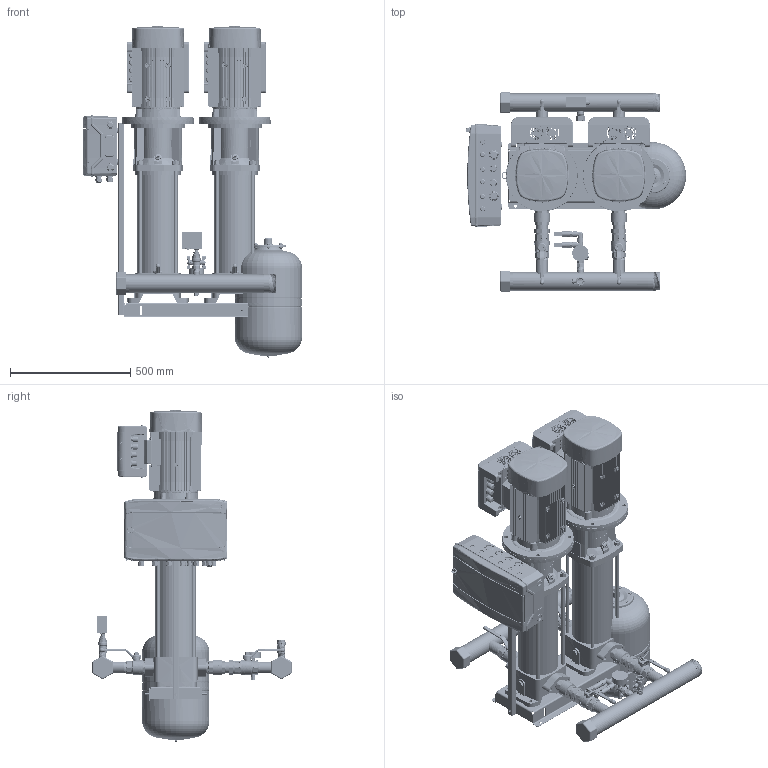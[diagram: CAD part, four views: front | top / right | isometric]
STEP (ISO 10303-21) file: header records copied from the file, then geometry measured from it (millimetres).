
FILE_DESCRIPTION(('CATIA V5 STEP Exchange','CAx-IF Rec.Pracs.--- Model Styling and Organization---1.4--- 2014-01-23','CAx-IF Rec.Pracs.---3D Tessellated Data Validation Properties---0.5---2014-09-14'),'2;1');
FILE_NAME('C:\Users\78432\YandexDisk\Drawings and 3D\3D Hydro Booster\Hydro-ME 3D\Hydro Models\Hydro ME 2 CRV10-xx\Hydro ME 2 CRVE10-14.stp','2023-09-20T10:28:13+00:00',('none'),('none'),'CATIA Version 5-6 Release 2019 SP6','CATIA V5 STEP AP242 v1','none');
FILE_SCHEMA(('AP242_MANAGED_MODEL_BASED_3D_ENGINEERING_MIM_LF {1 0 10303 442 1 1 4}'));
Length unit declared in the file: millimetre
Products named in the file (46): Hydro ME 2 CRVE10-14; 92051008; CRV10-14 Set; CRV 10-14_A_Oval_5.5kW; Base; Flange.1; Flange.2; Sleeve; Pumphead; Staybolt.1; Staybolt.2; Staybolt.3; Staybolt.4; Plug; AirVent; Motor; 92807544_9022-05; Hydraulica NY DN32 1,5 PN16; DN40_FM_LV_47.303.40; 92807557_9013-05; SAJ PDH30 4-7,5kW; 97941444; 405801; 405816; 91040267; 97941481; 00ID7527; Holder and CP 18mod; 92878909; Control ME (18mod); 2 sensors + manometer cpl.; manometr 16 bar; RPD-I-G1_2; 9021-01; 2070 1/2-1/2; _2020 1/2-1/2; 98594078; Tank 24L cpl.; DN20_FF_BF_47.300.20; WAV-24(D140 1'')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
Assembly tree (53 placements, depth 4):
  Hydro ME 2 CRVE10-14
    92051008
    CRV10-14 Set  x2
      CRV 10-14_A_Oval_5.5kW
        Base
        Flange.1
        Flange.2
        Sleeve
        Pumphead
        Staybolt.1
        Staybolt.2
        Staybolt.3
        Staybolt.4
        Plug
        AirVent
        Motor
      92807544_9022-05
      Hydraulica NY DN32 1,5 PN16
      DN40_FM_LV_47.303.40
      92807557_9013-05
      SAJ PDH30 4-7,5kW
    97941444  x2
      405801
      405816
      91040267
      97941481
    00ID7527  x2
    Holder and CP 18mod
      92878909
      Control ME (18mod)
    2 sensors + manometer cpl.
      manometr 16 bar
      RPD-I-G1_2  x2
      9021-01
      2070 1/2-1/2
      _2020 1/2-1/2
      98594078
    Tank 24L cpl.
      DN20_FF_BF_47.300.20
      9021-03
    Relay cpl.
      Relay RD-2R
      DN20_FF_BF_47.300.20
      2530 3/4-1/2
      _2530 1/2-1/4
    91078139
  WAV-24(D140 1'')
Bounding box: 916.82 x 829.22 x 1379.27 mm (x, y, z)
Volume: 99066667.9 mm3; surface area: 8321461.2 mm2
Topology: 182 solids, 210 shells, 27813 faces, 80352 edges, 53816 vertices
Faces by surface type: plane 11118, bspline 7380, cylinder 6769, cone 1803, torus 322, extrusion 260, sphere 161
Entity records: 685781 total; most frequent: CARTESIAN_POINT 346554, ORIENTED_EDGE 87737, EDGE_CURVE 44409, DIRECTION 39752, VERTEX_POINT 29698, VECTOR 18706, LINE 18641, B_SPLINE_CURVE_WITH_KNOTS 17818
